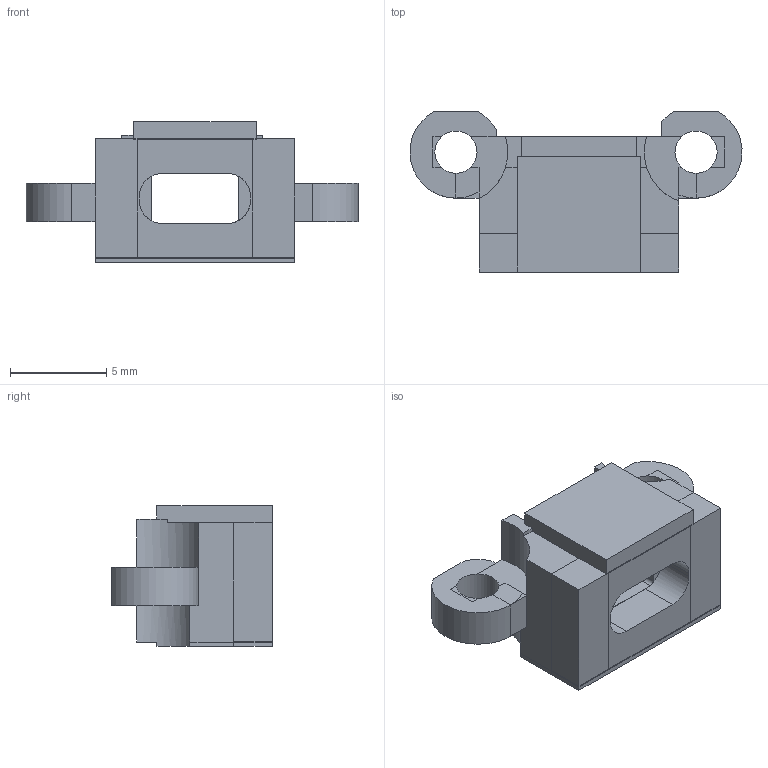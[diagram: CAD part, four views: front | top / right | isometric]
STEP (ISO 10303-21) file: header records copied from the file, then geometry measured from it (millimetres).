
FILE_DESCRIPTION(/* description */ (''),/* implementation_level */ '2;1');
FILE_NAME(/* name */ 'K03.step',/* time_stamp */ '2026-09-15T15:38:11-07:00',/* author */ (''),/* organization */ (''),/* preprocessor_version */ 'ST-DEVELOPER v20.1',/* originating_system */ 'Autodesk Translation Framework v15.8.0.0',/* authorisation */ '');
FILE_SCHEMA (('AUTOMOTIVE_DESIGN { 1 0 10303 214 3 1 1 }'));
Length unit declared in the file: millimetre
Products named in the file (1): 2026-09-15-15-38-11-904
Bounding box: 17.29 x 8.35 x 7.33 mm (x, y, z)
Volume: 403.2 mm3; surface area: 562.2 mm2
Topology: 1 solids, 1 shells, 126 faces, 338 edges, 210 vertices
Faces by surface type: plane 108, cylinder 18
Full cylindrical faces by diameter (mm): 2.2 x2
Entity records: 3918 total; most frequent: ORIENTED_EDGE 676, CARTESIAN_POINT 675, DIRECTION 671, EDGE_CURVE 338, LINE 259, VECTOR 259, VERTEX_POINT 210, AXIS2_PLACEMENT_3D 206
